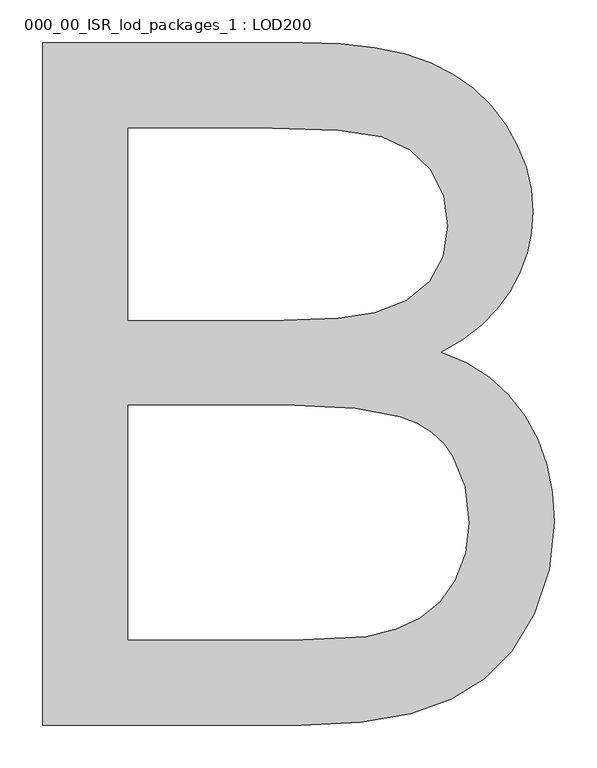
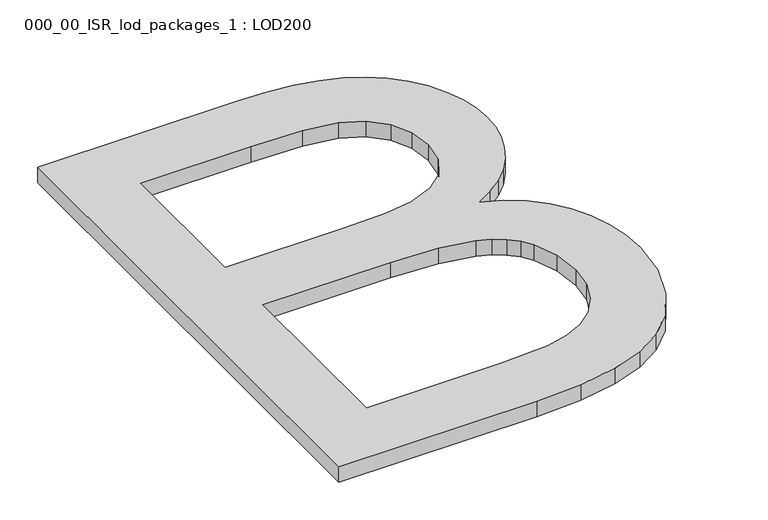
"""IFC4 building model written with IfcOpenShell, lengths in millimetres: proxy geometry, 000_00_ISR_lod_packages_1 : LOD200."""

import ifcopenshell
import ifcopenshell.guid

model = None  # the IFC model being written
_history = None  # IfcOwnerHistory: only IFC2X3 demands one
_inside = {}  # id of a spatial element -> (the spatial element, [elements in it])
_under = {}  # id of a project, library or spatial element -> (it, [spatial elements below it])
_declared = {}  # id of a project -> (the project, [libraries it declares])
_typed = {}  # id of a type object -> (the type object, [elements of that type])
_made_of = {}  # id of a material, layer set ... -> (it, [elements and type objects made of it])


def new_model(schema):
    """Start an empty IFC model of exactly this schema.

    Asked for "IFC4X3", IfcOpenShell would pick the latest addendum, in which some entities
    have other attributes; the version numbers below select the first issue.
    IFC2X3 requires an IfcOwnerHistory on every rooted entity: one is made here for all.
    """
    global model, _history
    if schema == "IFC4X3":
        model = ifcopenshell.file(schema_version=(4, 3, 0, 0))
    else:
        model = ifcopenshell.file(schema=schema)
    _inside.clear()
    _under.clear()
    _declared.clear()
    _typed.clear()
    _made_of.clear()
    _history = None
    if model.schema == "IFC2X3":
        org = make("IfcOrganization", Name="unknown")
        user = make(
            "IfcPersonAndOrganization",
            ThePerson=make("IfcPerson", FamilyName="unknown"),
            TheOrganization=org,
        )
        app = make(
            "IfcApplication",
            ApplicationDeveloper=org,
            Version="unknown",
            ApplicationFullName="unknown",
            ApplicationIdentifier="unknown",
        )
        _history = make(
            "IfcOwnerHistory",
            OwningUser=user,
            OwningApplication=app,
            ChangeAction="ADDED",
            CreationDate=0,
        )
    return model


def make(cls, **values):
    """One entity of the class cls with the attributes given. An attribute that is None is left unset."""
    return model.create_entity(
        cls, **{name: value for name, value in values.items() if value is not None}
    )


def rooted(cls, **values):
    """An entity with a GlobalId (a new one), such as an element, a storey or a relation."""
    return make(cls, GlobalId=ifcopenshell.guid.new(), OwnerHistory=_history, **values)


def si_unit(unit_type, name, prefix=None):
    """IfcSIUnit, for example si_unit("LENGTHUNIT", "METRE", prefix="MILLI")."""
    return make("IfcSIUnit", UnitType=unit_type, Prefix=prefix, Name=name)


def assignment(units):
    """IfcUnitAssignment: the units of a project."""
    return None if units is None else make("IfcUnitAssignment", Units=units)


def point(xyz):
    """IfcCartesianPoint."""
    return None if xyz is None else make("IfcCartesianPoint", Coordinates=xyz)


def direction(xyz):
    """IfcDirection."""
    return None if xyz is None else make("IfcDirection", DirectionRatios=xyz)


def frame(location, z_axis=None, x_axis=None):
    """IfcAxis2Placement3D, a coordinate frame: its origin and axes. An axis left out is left unset."""
    return make(
        "IfcAxis2Placement3D",
        Location=point(location),
        Axis=direction(z_axis),
        RefDirection=direction(x_axis),
    )


def origin():
    """The frame at (0, 0, 0) with its axes left unset."""
    return frame((0.0, 0.0, 0.0))


def origin_with_axes():
    """The frame at (0, 0, 0) with the z axis (0, 0, 1) and the x axis (1, 0, 0) written out."""
    return frame((0.0, 0.0, 0.0), z_axis=(0.0, 0.0, 1.0), x_axis=(1.0, 0.0, 0.0))


def place(relative_to, where):
    """IfcLocalPlacement: puts the frame where relative to a parent placement (None: the world)."""
    return make(
        "IfcLocalPlacement", PlacementRelTo=relative_to, RelativePlacement=where
    )


def context(
    kind, dimensions, precision=None, world=None, true_north=None, identifier=None
):
    """IfcGeometricRepresentationContext, for example the 3D "Model" context."""
    return make(
        "IfcGeometricRepresentationContext",
        ContextIdentifier=identifier,
        ContextType=kind,
        CoordinateSpaceDimension=dimensions,
        Precision=precision,
        WorldCoordinateSystem=world,
        TrueNorth=true_north,
    )


def project(units=None, contexts=None):
    """IfcProject with its units and contexts."""
    return rooted(
        "IfcProject",
        Name="project",
        RepresentationContexts=contexts,
        UnitsInContext=assignment(units),
    )


def spatial(cls, under=None, at=None, **own):
    """A site, building, storey or space (cls), placed at a placement, below another one or the project."""
    s = rooted(cls, ObjectPlacement=at, **own)
    if under is not None:
        _under.setdefault(under.id(), (under, []))[1].append(s)
    return s


def polyline(points):
    """IfcPolyline through the points."""
    return make("IfcPolyline", Points=[point(p) for p in points])


def outline(outer, holes=None, kind="AREA"):
    """IfcArbitraryClosedProfileDef: a profile drawn as a closed curve; with holes, ...WithVoids."""
    if holes is None:
        return make("IfcArbitraryClosedProfileDef", ProfileType=kind, OuterCurve=outer)
    return make(
        "IfcArbitraryProfileDefWithVoids",
        ProfileType=kind,
        OuterCurve=outer,
        InnerCurves=holes,
    )


def extrude(swept, where, along, depth):
    """IfcExtrudedAreaSolid: the profile swept, set in the frame where, extruded along a direction by depth."""
    return make(
        "IfcExtrudedAreaSolid",
        SweptArea=swept,
        Position=where,
        ExtrudedDirection=direction(along),
        Depth=depth,
    )


def shape(context_of_items, identifier, shape_type, items):
    """IfcShapeRepresentation: the items that make up one representation, for example the "Body"."""
    return make(
        "IfcShapeRepresentation",
        ContextOfItems=context_of_items,
        RepresentationIdentifier=identifier,
        RepresentationType=shape_type,
        Items=items,
    )


def source(mapping_origin, context_of_items, identifier, shape_type, items):
    """IfcRepresentationMap: a shape defined once, which mapped items show again and again."""
    return make(
        "IfcRepresentationMap",
        MappingOrigin=mapping_origin,
        MappedRepresentation=shape(context_of_items, identifier, shape_type, items),
    )


def transform(
    local_origin,
    x_axis=None,
    y_axis=None,
    z_axis=None,
    scale=None,
    scale2=None,
    scale3=None,
    uniform=True,
):
    """IfcCartesianTransformationOperator3D, or its non-uniform kind. x_axis, y_axis, z_axis: its Axis1, 2, 3."""
    if uniform:
        return make(
            "IfcCartesianTransformationOperator3D",
            Axis1=direction(x_axis),
            Axis2=direction(y_axis),
            LocalOrigin=point(local_origin),
            Scale=scale,
            Axis3=direction(z_axis),
        )
    return make(
        "IfcCartesianTransformationOperator3DnonUniform",
        Axis1=direction(x_axis),
        Axis2=direction(y_axis),
        LocalOrigin=point(local_origin),
        Scale=scale,
        Axis3=direction(z_axis),
        Scale2=scale2,
        Scale3=scale3,
    )


def mapped(mapping_source, mapping_target):
    """IfcMappedItem: shows the shape of a source again, moved by a transform."""
    return make(
        "IfcMappedItem", MappingSource=mapping_source, MappingTarget=mapping_target
    )


def made_of(thing, what):
    """Note that an element or type object is made of a material, layer set ...; save() writes the relation."""
    if what is not None:
        _made_of.setdefault(what.id(), (what, []))[1].append(thing)
    return thing


def element(
    cls,
    number,
    at=None,
    inside=None,
    cuts=None,
    type_object=None,
    material=None,
    context=None,
    identifier="Body",
    shape_type=None,
    held_by="IfcProductDefinitionShape",
    body=None,
    shapes=None,
    **own,
):
    """One element of the class cls, such as IfcWall. Its Tag is "e" and its number.

    at: its placement. inside: the storey or other place that contains it. cuts: it is an
    opening in that element (IfcRelVoidsElement). A single representation is given by context,
    identifier, shape_type and body (its items); several are given by shapes. held_by: the class
    of the entity that holds the representations. save() writes the other relations.
    """
    e = rooted(cls, Tag="e%d" % number, ObjectPlacement=at, **own)
    if body is not None:
        shapes = [shape(context, identifier, shape_type, body)]
    if shapes is not None:
        e.Representation = make(held_by, Representations=shapes)
    if inside is not None:
        _inside.setdefault(inside.id(), (inside, []))[1].append(e)
    if cuts is not None:
        rooted(
            "IfcRelVoidsElement", RelatingBuildingElement=cuts, RelatedOpeningElement=e
        )
    if type_object is not None:
        _typed.setdefault(type_object.id(), (type_object, []))[1].append(e)
    return made_of(e, material)


def aggregate(whole, parts):
    """IfcRelAggregates: a whole, such as a stair, and the parts it consists of."""
    return rooted("IfcRelAggregates", RelatingObject=whole, RelatedObjects=parts)


def save(model, path):
    """Write the relations noted so far, then the file.

    IfcRelAggregates (storeys below a building ...), IfcRelContainedInSpatialStructure (elements
    in a storey), IfcRelDefinesByType, IfcRelAssociatesMaterial and IfcRelDeclares: one each for
    every whole, place, type object, material and project.
    """
    for whole, parts in _under.values():
        aggregate(whole, parts)
    for where, things in _inside.values():
        rooted(
            "IfcRelContainedInSpatialStructure",
            RelatedElements=things,
            RelatingStructure=where,
        )
    for kind, things in _typed.values():
        rooted("IfcRelDefinesByType", RelatedObjects=things, RelatingType=kind)
    for what, things in _made_of.values():
        rooted("IfcRelAssociatesMaterial", RelatedObjects=things, RelatingMaterial=what)
    for by, libraries in _declared.values():
        rooted("IfcRelDeclares", RelatingContext=by, RelatedDefinitions=libraries)
    model.write(path)


def proxy_000_00_isr_lod_packages_1_lod200_d827b4a2(model_context):
    return source(origin(), model_context, "Body", "SweptSolid", [
        extrude(outline(polyline([(587.4331389, 500.0), (587.4331389, 1299.3886983), (892.4733087, 1299.3886983), (936.7204782, 1297.9188751), (976.3691135, 1293.5094052), (1011.4192146, 1286.1602889), (1041.8707815, 1275.8715259), (1068.4983683, 1262.5333371), (1092.0765292, 1246.0359431), (1112.6052642, 1226.3793439), (1130.0845734, 1203.5635394), (1144.0448451, 1178.8753875), (1154.0164677, 1153.6017458), (1159.9994413, 1127.7426143), (1161.9937658, 1101.2979931), (1160.3165816, 1076.8720918), (1155.2850289, 1053.1658549), (1146.8991077, 1030.1792827), (1135.1588181, 1007.9123749), (1120.0275668, 987.0604007), (1101.4687609, 968.3186292), (1079.4824003, 951.6870605), (1054.068485, 937.1656944), (1084.227307, 924.3093149), (1110.6902248, 907.5984611), (1133.4572384, 887.0331329), (1152.5283479, 862.6133304), (1167.5986106, 835.0831136), (1178.3630839, 805.1865422), (1184.821768, 772.9236164), (1186.9746626, 738.2943361), (1181.0953695, 682.550831), (1163.4574902, 630.8569634), (1137.134846, 586.8964399), (1105.2012582, 554.3529669), (1066.0954207, 530.7870037), (1018.2560275, 513.7590096), (960.1217724, 503.4397524), (890.1313496, 500.0), (587.4331389, 500.0)]), holes=[polyline([(687.3567262, 974.6370396), (869.8343709, 974.6370396), (933.6527558, 976.7838355), (976.3935089, 983.2242229), (1013.6940863, 998.032235), (1040.5046387, 1020.20766), (1056.6787936, 1049.4089623), (1062.0701785, 1085.294606), (1057.0447247, 1120.1312473), (1041.9683631, 1150.4791337), (1017.5241652, 1174.1670739), (984.3952025, 1189.0238768), (933.5551742, 1196.8548025), (855.9777797, 1199.465111), (687.3567262, 1199.465111), (687.3567262, 974.6370396)]), polyline([(687.3567262, 599.9235873), (892.2781454, 599.9235873), (966.4401829, 603.8268524), (1000.8621022, 612.4872219), (1029.1851698, 625.5875555), (1052.2144341, 644.3476235), (1070.7549434, 669.9871964), (1082.9770424, 701.3596898), (1087.0510753, 737.3185198), (1082.2695756, 779.0834567), (1067.9250762, 814.9934959), (1056.8800557, 830.2589218), (1042.8709932, 843.0726094), (1025.8978887, 853.4345585), (1005.9607423, 861.3447693), (953.681385, 871.3712816), (882.5199826, 874.7134523), (687.3567262, 874.7134523), (687.3567262, 599.9235873)])]), origin_with_axes(), (0.0, 0.0, 1.0), 25.0),
    ])


if __name__ == "__main__":
    model = new_model("IFC4")
    model_context = context("Model", 3, world=origin())
    ifc_project = project(units=[si_unit("LENGTHUNIT", "METRE", prefix="MILLI")], contexts=[model_context])
    site = spatial("IfcSite", under=ifc_project)
    building = spatial("IfcBuilding", under=site)
    placement = place(None, origin())
    proxy_000_00_isr_lod_packages_1_lod200_shape = proxy_000_00_isr_lod_packages_1_lod200_d827b4a2(model_context)
    element("IfcBuildingElementProxy", 1, Name="000_00_ISR_lod_packages_1 : LOD200", ObjectType="000_00_ISR_lod_packages_1 : LOD200", at=placement, inside=building, context=model_context, shape_type="MappedRepresentation", body=[
        mapped(proxy_000_00_isr_lod_packages_1_lod200_shape, transform((0.0, 0.0, 0.0), x_axis=(1.0, 0.0, 0.0), y_axis=(0.0, 1.0, 0.0), z_axis=(0.0, 0.0, 1.0))),
    ])
    save(model, "model.ifc")
